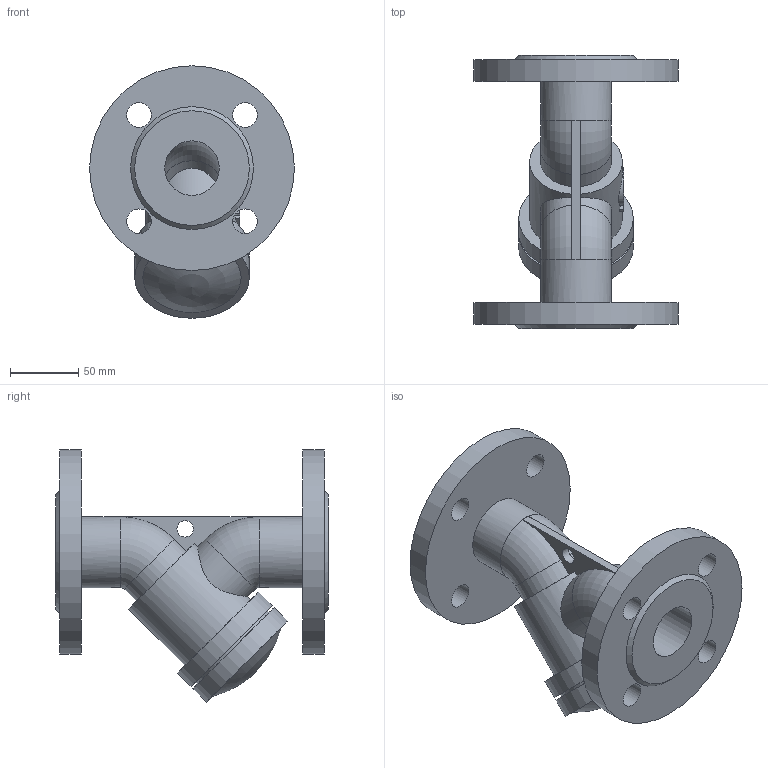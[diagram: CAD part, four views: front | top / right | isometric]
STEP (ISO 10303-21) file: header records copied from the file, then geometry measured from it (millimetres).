
FILE_DESCRIPTION(('STEP AP203'), '1');
FILE_NAME('Ôèëüòð ñåò÷àòûé ôëàíöåâûé 021Y.Z DN40 PN10_PN16', '', ('UNSPECIFIED'), ('UNSPECIFIED'), 'ASCON STEP Converter 1.6', 'ASCON Math Kernel', '');
FILE_SCHEMA(('CONFIG_CONTROL_DESIGN'));
Length unit declared in the file: millimetre
Bounding box: 150 x 200 x 185 mm (x, y, z)
Volume: 1038299.1 mm3; surface area: 160342.5 mm2
Topology: 1 solids, 1 shells, 67 faces, 147 edges, 94 vertices
Faces by surface type: cylinder 31, plane 29, torus 4, cone 2, sphere 1
Full cylindrical faces by diameter (mm): 12 x1, 18 x8, 40 x4, 52 x2, 68 x1, 74 x1, 84 x2, 150 x2
Entity records: 3229 total; most frequent: CARTESIAN_POINT 1209, DIRECTION 313, ORIENTED_EDGE 240, AXIS2_PLACEMENT_3D 136, EDGE_LOOP 123, EDGE_CURVE 120, VERTEX_POINT 93, FACE_BOUND 75
